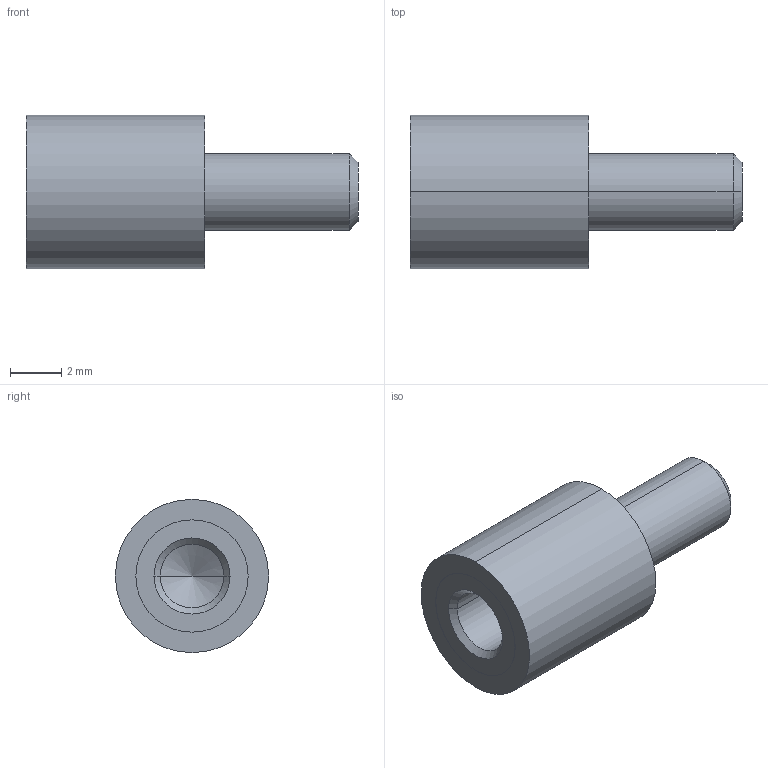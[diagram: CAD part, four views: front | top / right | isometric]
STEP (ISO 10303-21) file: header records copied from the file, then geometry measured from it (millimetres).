
FILE_DESCRIPTION (( 'STEP AP214' ), '1' );
FILE_NAME ('351-6-7-M3-ES-55.step', '2025-07-23T09:49:15', ( '' ), ( '' ), 'SwSTEP 2.0', 'SolidWorks 2022', '' );
FILE_SCHEMA (( 'AUTOMOTIVE_DESIGN' ));
Length unit declared in the file: millimetre
Products named in the file (1): 351-6-7-M3-ES-55
Bounding box: 13 x 6 x 6 mm (x, y, z)
Volume: 221.1 mm3; surface area: 270.4 mm2
Topology: 1 solids, 1 shells, 24 faces, 48 edges, 29 vertices
Faces by surface type: cylinder 12, cone 6, plane 6
Entity records: 740 total; most frequent: DIRECTION 124, CARTESIAN_POINT 100, ORIENTED_EDGE 92, AXIS2_PLACEMENT_3D 53, EDGE_CURVE 46, EDGE_LOOP 29, VERTEX_POINT 29, CIRCLE 28
